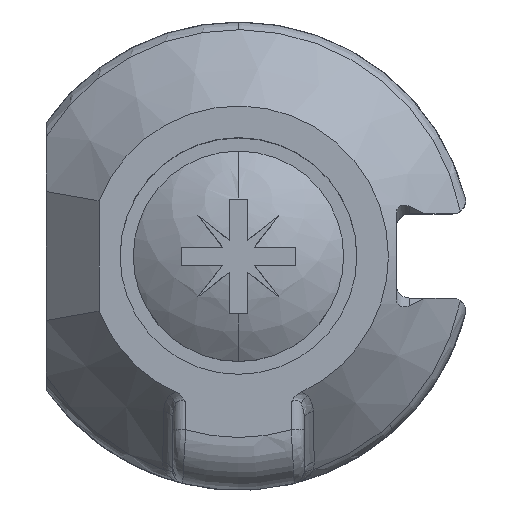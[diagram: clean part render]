
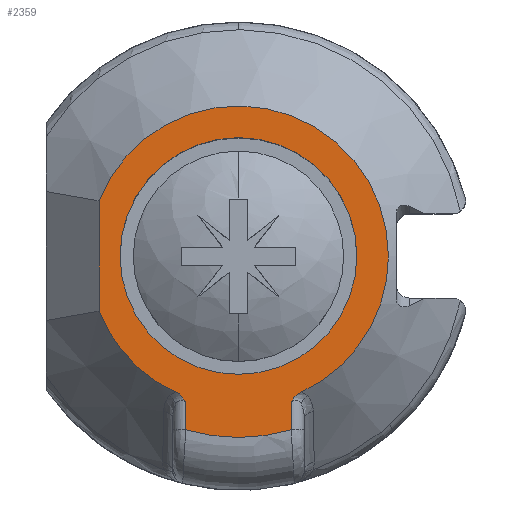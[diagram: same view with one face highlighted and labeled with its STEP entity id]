
A CAD part, top view. The second image highlights one B-rep face of the part: STEP entity #2359.
In plain terms, the highlighted planar face has unit normal (0, 0, 1).
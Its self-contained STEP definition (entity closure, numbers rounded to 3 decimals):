
#333=CARTESIAN_POINT('',(-150.893,-35.022,
-106.1));
#334=DIRECTION('',(0.,0.,-1.));
#335=DIRECTION('',(-0.416,-0.909,0.));
#336=AXIS2_PLACEMENT_3D('',#333,#334,#335);
#338=CARTESIAN_POINT('',(-150.893,-35.022,
-106.1));
#339=DIRECTION('',(0.,0.,-1.));
#340=DIRECTION('',(-0.93,0.368,0.));
#341=AXIS2_PLACEMENT_3D('',#338,#339,#340);
#343=CARTESIAN_POINT('',(-150.893,-35.022,
-106.1));
#344=DIRECTION('',(0.,0.,-1.));
#345=DIRECTION('',(1.,0.,0.));
#346=AXIS2_PLACEMENT_3D('',#343,#344,#345);
#348=CARTESIAN_POINT('',(-150.893,-35.022,
-106.1));
#349=DIRECTION('',(0.,0.,-1.));
#350=DIRECTION('',(0.29,-0.957,0.));
#351=AXIS2_PLACEMENT_3D('',#348,#349,#350);
#353=CARTESIAN_POINT('',(-150.893,-35.022,
-106.1));
#354=DIRECTION('',(0.,0.,1.));
#355=DIRECTION('',(1.,0.,0.));
#356=AXIS2_PLACEMENT_3D('',#353,#354,#355);
#358=CARTESIAN_POINT('',(-150.893,-35.022,
-106.1));
#359=DIRECTION('',(0.,0.,1.));
#360=DIRECTION('',(-1.,0.,0.));
#361=AXIS2_PLACEMENT_3D('',#358,#359,#360);
#409=CARTESIAN_POINT('',(-153.267,-40.204,
-106.1));
#410=CARTESIAN_POINT('',(-153.214,-40.227,
-106.1));
#411=CARTESIAN_POINT('',(-153.115,-40.286,
-106.1));
#412=CARTESIAN_POINT('',(-152.989,-40.419,
-106.1));
#413=CARTESIAN_POINT('',(-152.922,-40.523,
-106.1));
#414=CARTESIAN_POINT('',(-152.893,-40.58,
-106.1));
#424=DIRECTION('',(0.,-1.,0.));
#425=VECTOR('',#424,1.046);
#426=CARTESIAN_POINT('',(-152.893,-40.58,
-106.1));
#427=LINE('',#426,#425);
#647=CARTESIAN_POINT('',(-148.893,-40.58,
-106.1));
#649=CARTESIAN_POINT('',(-148.893,-40.58,
-106.1));
#650=CARTESIAN_POINT('',(-148.865,-40.524,
-106.1));
#651=CARTESIAN_POINT('',(-148.799,-40.421,
-106.1));
#652=CARTESIAN_POINT('',(-148.674,-40.288,
-106.1));
#653=CARTESIAN_POINT('',(-148.574,-40.228,
-106.1));
#654=CARTESIAN_POINT('',(-148.52,-40.204,
-106.1));
#656=CARTESIAN_POINT('',(-148.52,-40.204,
-106.1));
#767=DIRECTION('',(0.,1.,0.));
#768=VECTOR('',#767,1.046);
#769=CARTESIAN_POINT('',(-148.893,-41.625,
-106.1));
#770=LINE('',#769,#768);
#842=DIRECTION('',(0.,-1.,0.));
#843=VECTOR('',#842,4.194);
#844=CARTESIAN_POINT('',(-156.194,-32.925,
-106.1));
#845=LINE('',#844,#843);
#1649=VERTEX_POINT('',#656);
#1651=CARTESIAN_POINT('',(-145.193,-35.022,
-106.1));
#1652=VERTEX_POINT('',#1651);
#1653=CARTESIAN_POINT('',(-156.194,-32.925,
-106.1));
#1654=VERTEX_POINT('',#1653);
#1671=VERTEX_POINT('',#647);
#1729=CARTESIAN_POINT('',(-156.194,-37.119,
-106.1));
#1730=VERTEX_POINT('',#1729);
#1731=CARTESIAN_POINT('',(-153.267,-40.204,
-106.1));
#1732=VERTEX_POINT('',#1731);
#1733=CARTESIAN_POINT('',(-148.893,-41.625,
-106.1));
#1734=VERTEX_POINT('',#1733);
#1735=CARTESIAN_POINT('',(-152.893,-41.625,
-106.1));
#1736=VERTEX_POINT('',#1735);
#1737=CARTESIAN_POINT('',(-152.893,-40.58,
-106.1));
#1738=VERTEX_POINT('',#1737);
#1739=CARTESIAN_POINT('',(-146.393,-35.022,
-106.1));
#1740=CARTESIAN_POINT('',(-155.393,-35.022,
-106.1));
#1741=VERTEX_POINT('',#1739);
#1742=VERTEX_POINT('',#1740);
#2330=CARTESIAN_POINT('',(-159.793,-35.022,
-106.1));
#2331=DIRECTION('',(0.,0.,1.));
#2332=DIRECTION('',(1.,0.,0.));
#2333=AXIS2_PLACEMENT_3D('',#2330,#2331,#2332);
#2334=PLANE('',#2333);
#2336=ORIENTED_EDGE('',*,*,#2335,.T.);
#2338=ORIENTED_EDGE('',*,*,#2337,.F.);
#2340=ORIENTED_EDGE('',*,*,#2339,.T.);
#2342=ORIENTED_EDGE('',*,*,#2341,.T.);
#2344=ORIENTED_EDGE('',*,*,#2343,.F.);
#2346=ORIENTED_EDGE('',*,*,#2345,.F.);
#2348=ORIENTED_EDGE('',*,*,#2347,.T.);
#2350=ORIENTED_EDGE('',*,*,#2349,.F.);
#2352=ORIENTED_EDGE('',*,*,#2351,.F.);
#2353=EDGE_LOOP('',(#2336,#2338,#2340,#2342,#2344,#2346,#2348,#2350,#2352));
#2354=FACE_OUTER_BOUND('',#2353,.F.);
#2355=ORIENTED_EDGE('',*,*,#2324,.T.);
#2356=ORIENTED_EDGE('',*,*,#2310,.T.);
#2357=EDGE_LOOP('',(#2355,#2356));
#2358=FACE_BOUND('',#2357,.F.);
#2359=ADVANCED_FACE('',(#2354,#2358),#2334,.T.);
#337=CIRCLE('',#336,5.7);
#342=CIRCLE('',#341,5.7);
#347=CIRCLE('',#346,5.7);
#352=CIRCLE('',#351,6.9);
#357=CIRCLE('',#356,4.5);
#362=CIRCLE('',#361,4.5);
#415=B_SPLINE_CURVE_WITH_KNOTS('',3,(#409,#410,#411,#412,#413,#414),
.UNSPECIFIED.,.F.,.F.,(4,1,1,4),(0.,0.333,0.667,1.),
.UNSPECIFIED.);
#655=B_SPLINE_CURVE_WITH_KNOTS('',3,(#649,#650,#651,#652,#653,#654),
.UNSPECIFIED.,.F.,.F.,(4,1,1,4),(0.,0.333,0.667,1.),
.UNSPECIFIED.);
#2310=EDGE_CURVE('',#1742,#1741,#362,.T.);
#2324=EDGE_CURVE('',#1741,#1742,#357,.T.);
#2335=EDGE_CURVE('',#1732,#1730,#337,.T.);
#2337=EDGE_CURVE('',#1654,#1730,#845,.T.);
#2339=EDGE_CURVE('',#1654,#1652,#342,.T.);
#2341=EDGE_CURVE('',#1652,#1649,#347,.T.);
#2343=EDGE_CURVE('',#1671,#1649,#655,.T.);
#2345=EDGE_CURVE('',#1734,#1671,#770,.T.);
#2347=EDGE_CURVE('',#1734,#1736,#352,.T.);
#2349=EDGE_CURVE('',#1738,#1736,#427,.T.);
#2351=EDGE_CURVE('',#1732,#1738,#415,.T.);
